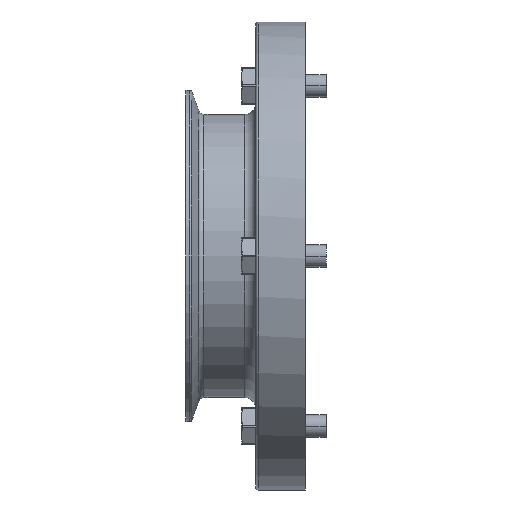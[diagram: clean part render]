
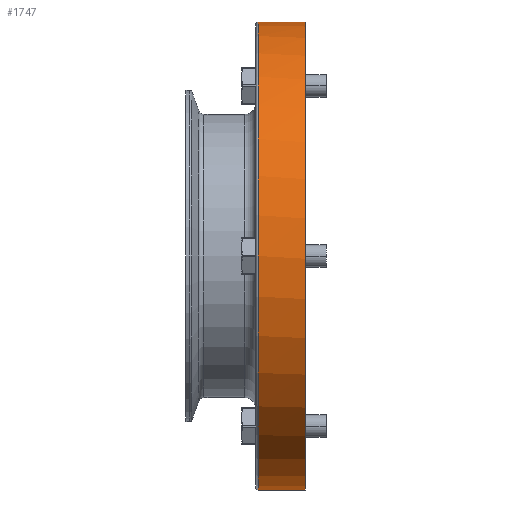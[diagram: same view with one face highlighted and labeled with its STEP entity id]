
A CAD part, left-side view. The second image highlights one B-rep face of the part: STEP entity #1747.
In plain terms, the highlighted cylindrical face has radius 84 mm (diameter 168 mm), a partial arc.
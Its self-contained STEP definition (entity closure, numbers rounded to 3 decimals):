
#17 = CARTESIAN_POINT ( 'NONE',  ( 0., 0., -84. ) ) ;
#29 = VERTEX_POINT ( 'NONE', #3448 ) ;
#158 = DIRECTION ( 'NONE',  ( 0., 1., 0. ) ) ;
#199 = LINE ( 'NONE', #3507, #1209 ) ;
#259 = DIRECTION ( 'NONE',  ( 0., 1., 0. ) ) ;
#326 = EDGE_CURVE ( 'NONE', #1294, #2782, #2735, .T. ) ;
#384 = CIRCLE ( 'NONE', #3320, 84. ) ;
#429 = VECTOR ( 'NONE', #3280, 1000. ) ;
#465 = CARTESIAN_POINT ( 'NONE',  ( 0., 16.9, -84. ) ) ;
#561 = VERTEX_POINT ( 'NONE', #2075 ) ;
#649 = CARTESIAN_POINT ( 'NONE',  ( 0., 0., 0. ) ) ;
#821 = CARTESIAN_POINT ( 'NONE',  ( 0., 0., 84. ) ) ;
#844 = EDGE_CURVE ( 'NONE', #3199, #29, #3554, .T. ) ;
#905 = AXIS2_PLACEMENT_3D ( 'NONE', #2331, #158, #2862 ) ;
#975 = CARTESIAN_POINT ( 'NONE',  ( -2., 0., 83.976 ) ) ;
#1056 = DIRECTION ( 'NONE',  ( 0., 1., 0. ) ) ;
#1209 = VECTOR ( 'NONE', #1056, 1000. ) ;
#1247 = EDGE_CURVE ( 'NONE', #2782, #29, #384, .T. ) ;
#1294 = VERTEX_POINT ( 'NONE', #17 ) ;
#1433 = EDGE_CURVE ( 'NONE', #561, #3199, #1487, .T. ) ;
#1474 = FACE_OUTER_BOUND ( 'NONE', #2559, .T. ) ;
#1487 = CIRCLE ( 'NONE', #905, 84. ) ;
#1493 = CYLINDRICAL_SURFACE ( 'NONE', #1637, 84. ) ;
#1575 = EDGE_CURVE ( 'NONE', #3010, #561, #199, .T. ) ;
#1637 = AXIS2_PLACEMENT_3D ( 'NONE', #649, #2583, #3141 ) ;
#1747 = ADVANCED_FACE ( 'CYL_4', ( #1474 ), #1493, .T. ) ;
#1855 = ORIENTED_EDGE ( 'NONE', *, *, #326, .F. ) ;
#2020 = DIRECTION ( 'NONE',  ( 0., 1., 0. ) ) ;
#2075 = CARTESIAN_POINT ( 'NONE',  ( -2., 4.9, 83.976 ) ) ;
#2149 = VECTOR ( 'NONE', #259, 1000. ) ;
#2186 = CARTESIAN_POINT ( 'NONE',  ( 0., 0., -84. ) ) ;
#2331 = CARTESIAN_POINT ( 'NONE',  ( 0., 4.9, 0. ) ) ;
#2334 = ORIENTED_EDGE ( 'NONE', *, *, #1575, .T. ) ;
#2430 = CARTESIAN_POINT ( 'NONE',  ( 0., 0., 0. ) ) ;
#2437 = CIRCLE ( 'NONE', #2715, 84. ) ;
#2454 = ORIENTED_EDGE ( 'NONE', *, *, #1247, .F. ) ;
#2559 = EDGE_LOOP ( 'NONE', ( #1855, #3206, #2334, #2675, #2590, #2454 ) ) ;
#2583 = DIRECTION ( 'NONE',  ( 0., 1., 0. ) ) ;
#2590 = ORIENTED_EDGE ( 'NONE', *, *, #844, .T. ) ;
#2675 = ORIENTED_EDGE ( 'NONE', *, *, #1433, .T. ) ;
#2715 = AXIS2_PLACEMENT_3D ( 'NONE', #2430, #3540, #3265 ) ;
#2735 = LINE ( 'NONE', #2186, #429 ) ;
#2756 = EDGE_CURVE ( 'NONE', #1294, #3010, #2437, .T. ) ;
#2759 = DIRECTION ( 'NONE',  ( 0., 0., 1. ) ) ;
#2782 = VERTEX_POINT ( 'NONE', #465 ) ;
#2862 = DIRECTION ( 'NONE',  ( 0., 0., 1. ) ) ;
#3010 = VERTEX_POINT ( 'NONE', #975 ) ;
#3132 = CARTESIAN_POINT ( 'NONE',  ( 0., 4.9, 84. ) ) ;
#3141 = DIRECTION ( 'NONE',  ( 0., 0., 1. ) ) ;
#3199 = VERTEX_POINT ( 'NONE', #3132 ) ;
#3206 = ORIENTED_EDGE ( 'NONE', *, *, #2756, .T. ) ;
#3265 = DIRECTION ( 'NONE',  ( 0., 0., 1. ) ) ;
#3280 = DIRECTION ( 'NONE',  ( 0., 1., 0. ) ) ;
#3303 = CARTESIAN_POINT ( 'NONE',  ( 0., 16.9, 0. ) ) ;
#3320 = AXIS2_PLACEMENT_3D ( 'NONE', #3303, #2020, #2759 ) ;
#3448 = CARTESIAN_POINT ( 'NONE',  ( 0., 16.9, 84. ) ) ;
#3507 = CARTESIAN_POINT ( 'NONE',  ( -2., 0., 83.976 ) ) ;
#3540 = DIRECTION ( 'NONE',  ( 0., 1., 0. ) ) ;
#3554 = LINE ( 'NONE', #821, #2149 ) ;
